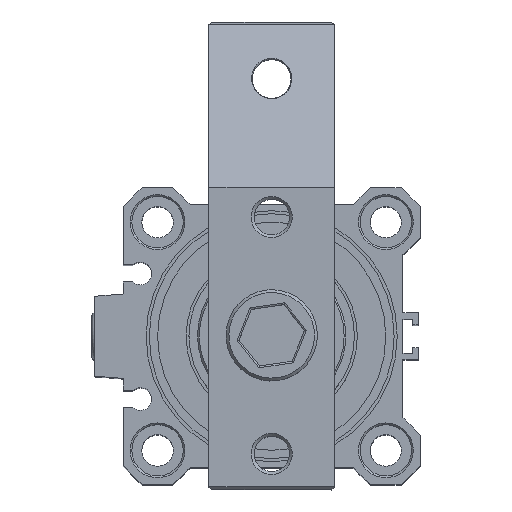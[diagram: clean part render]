
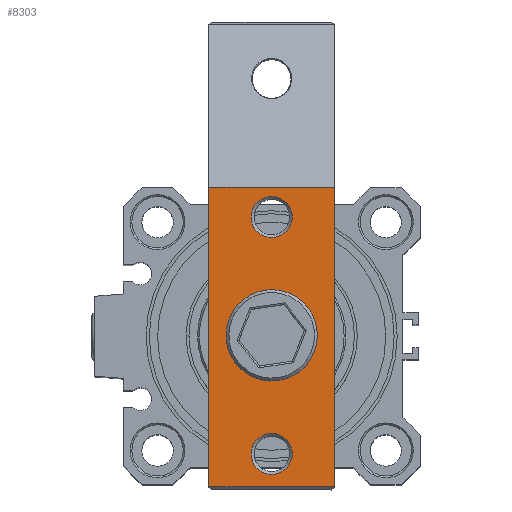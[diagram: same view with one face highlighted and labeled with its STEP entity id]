
A CAD part, top view. The second image highlights one B-rep face of the part: STEP entity #8303.
In plain terms, the highlighted planar face has unit normal (0, 0, 1) as drawn and (0, 1, 0) by its records, which use the part's own axes.
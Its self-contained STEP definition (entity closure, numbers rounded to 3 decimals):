
#203=PLANE('',#9141);
#348=FACE_BOUND('',#1174,.T.);
#349=FACE_BOUND('',#1175,.T.);
#350=FACE_BOUND('',#1176,.T.);
#699=FACE_OUTER_BOUND('',#1173,.T.);
#1173=EDGE_LOOP('',(#5998,#5999,#6000,#6001));
#1174=EDGE_LOOP('',(#6002,#6003));
#1175=EDGE_LOOP('',(#6004,#6005));
#1176=EDGE_LOOP('',(#6006,#6007));
#1679=LINE('',#13740,#2154);
#1680=LINE('',#13742,#2155);
#1681=LINE('',#13744,#2156);
#1682=LINE('',#13745,#2157);
#2154=VECTOR('',#10721,1000.);
#2155=VECTOR('',#10722,1000.);
#2156=VECTOR('',#10723,1000.);
#2157=VECTOR('',#10724,1000.);
#2720=CIRCLE('',#9104,5.75);
#2721=CIRCLE('',#9105,5.75);
#2724=CIRCLE('',#9109,3.6);
#2725=CIRCLE('',#9110,3.6);
#2728=CIRCLE('',#9114,3.6);
#2729=CIRCLE('',#9115,3.6);
#3462=VERTEX_POINT('',#13655);
#3463=VERTEX_POINT('',#13657);
#3466=VERTEX_POINT('',#13665);
#3467=VERTEX_POINT('',#13667);
#3470=VERTEX_POINT('',#13675);
#3471=VERTEX_POINT('',#13677);
#3492=VERTEX_POINT('',#13738);
#3493=VERTEX_POINT('',#13739);
#3494=VERTEX_POINT('',#13741);
#3495=VERTEX_POINT('',#13743);
#4431=EDGE_CURVE('',#3463,#3462,#2720,.T.);
#4432=EDGE_CURVE('',#3462,#3463,#2721,.T.);
#4436=EDGE_CURVE('',#3467,#3466,#2724,.T.);
#4437=EDGE_CURVE('',#3466,#3467,#2725,.T.);
#4441=EDGE_CURVE('',#3471,#3470,#2728,.T.);
#4442=EDGE_CURVE('',#3470,#3471,#2729,.T.);
#4471=EDGE_CURVE('',#3492,#3493,#1679,.T.);
#4472=EDGE_CURVE('',#3492,#3494,#1680,.T.);
#4473=EDGE_CURVE('',#3494,#3495,#1681,.T.);
#4474=EDGE_CURVE('',#3493,#3495,#1682,.T.);
#5998=ORIENTED_EDGE('',*,*,#4471,.F.);
#5999=ORIENTED_EDGE('',*,*,#4472,.T.);
#6000=ORIENTED_EDGE('',*,*,#4473,.T.);
#6001=ORIENTED_EDGE('',*,*,#4474,.F.);
#6002=ORIENTED_EDGE('',*,*,#4441,.T.);
#6003=ORIENTED_EDGE('',*,*,#4442,.T.);
#6004=ORIENTED_EDGE('',*,*,#4436,.T.);
#6005=ORIENTED_EDGE('',*,*,#4437,.T.);
#6006=ORIENTED_EDGE('',*,*,#4431,.T.);
#6007=ORIENTED_EDGE('',*,*,#4432,.T.);
#8303=ADVANCED_FACE('',(#699,#348,#349,#350),#203,.F.);
#9104=AXIS2_PLACEMENT_3D('',#13658,#10631,#10632);
#9105=AXIS2_PLACEMENT_3D('',#13659,#10633,#10634);
#9109=AXIS2_PLACEMENT_3D('',#13668,#10642,#10643);
#9110=AXIS2_PLACEMENT_3D('',#13669,#10644,#10645);
#9114=AXIS2_PLACEMENT_3D('',#13678,#10653,#10654);
#9115=AXIS2_PLACEMENT_3D('',#13679,#10655,#10656);
#9141=AXIS2_PLACEMENT_3D('',#13737,#10719,#10720);
#10631=DIRECTION('center_axis',(0.,-1.,0.));
#10632=DIRECTION('ref_axis',(0.,0.,-1.));
#10633=DIRECTION('center_axis',(0.,-1.,0.));
#10634=DIRECTION('ref_axis',(0.,0.,-1.));
#10642=DIRECTION('center_axis',(0.,-1.,0.));
#10643=DIRECTION('ref_axis',(0.,0.,-1.));
#10644=DIRECTION('center_axis',(0.,-1.,0.));
#10645=DIRECTION('ref_axis',(0.,0.,-1.));
#10653=DIRECTION('center_axis',(0.,-1.,0.));
#10654=DIRECTION('ref_axis',(0.,0.,-1.));
#10655=DIRECTION('center_axis',(0.,-1.,0.));
#10656=DIRECTION('ref_axis',(0.,0.,-1.));
#10719=DIRECTION('center_axis',(0.,-1.,0.));
#10720=DIRECTION('ref_axis',(0.,0.,-1.));
#10721=DIRECTION('',(-1.,0.,0.));
#10722=DIRECTION('',(0.,0.,-1.));
#10723=DIRECTION('',(-1.,0.,0.));
#10724=DIRECTION('',(0.,0.,-1.));
#13655=CARTESIAN_POINT('',(77.002,108.154,5.25));
#13657=CARTESIAN_POINT('',(77.002,108.154,16.75));
#13658=CARTESIAN_POINT('Origin',(77.002,108.154,11.));
#13659=CARTESIAN_POINT('Origin',(77.002,108.154,11.));
#13665=CARTESIAN_POINT('',(56.252,108.154,7.4));
#13667=CARTESIAN_POINT('',(56.252,108.154,14.6));
#13668=CARTESIAN_POINT('Origin',(56.252,108.154,11.));
#13669=CARTESIAN_POINT('Origin',(56.252,108.154,11.));
#13675=CARTESIAN_POINT('',(97.752,108.154,7.4));
#13677=CARTESIAN_POINT('',(97.752,108.154,14.6));
#13678=CARTESIAN_POINT('Origin',(97.752,108.154,11.));
#13679=CARTESIAN_POINT('Origin',(97.752,108.154,11.));
#13737=CARTESIAN_POINT('Origin',(104.052,108.154,22.));
#13738=CARTESIAN_POINT('',(103.552,108.154,22.));
#13739=CARTESIAN_POINT('',(51.052,108.154,22.));
#13740=CARTESIAN_POINT('',(104.052,108.154,22.));
#13741=CARTESIAN_POINT('',(103.552,108.154,0.));
#13742=CARTESIAN_POINT('',(103.552,108.154,22.));
#13743=CARTESIAN_POINT('',(51.052,108.154,0.));
#13744=CARTESIAN_POINT('',(104.052,108.154,0.));
#13745=CARTESIAN_POINT('',(51.052,108.154,22.));
